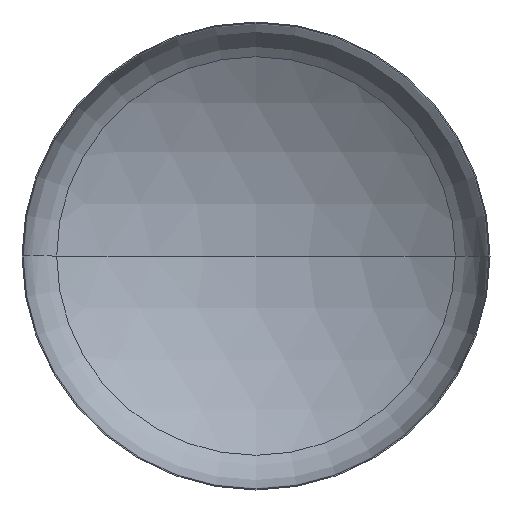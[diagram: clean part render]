
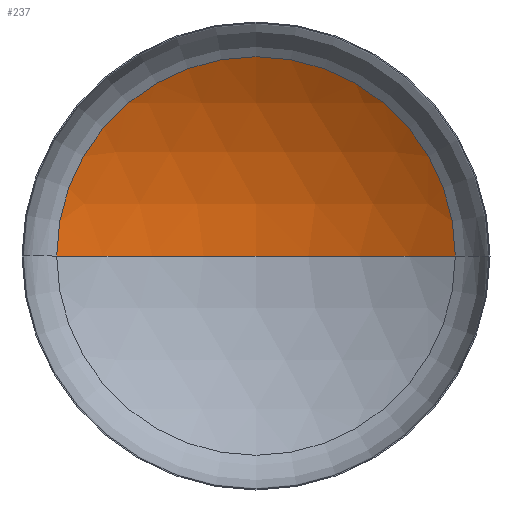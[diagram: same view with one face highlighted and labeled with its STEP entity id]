
A CAD part, front view. The second image highlights one B-rep face of the part: STEP entity #237.
In plain terms, the highlighted spherical face has radius 5200 mm.
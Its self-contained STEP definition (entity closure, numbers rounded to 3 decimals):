
#14 = CIRCLE ( 'NONE', #93, 5200. ) ;
#16 = VERTEX_POINT ( 'NONE', #348 ) ;
#22 = DIRECTION ( 'NONE',  ( 0., 0., -1. ) ) ;
#23 = DIRECTION ( 'NONE',  ( 0., 0., -1. ) ) ;
#32 = VERTEX_POINT ( 'NONE', #45 ) ;
#45 = CARTESIAN_POINT ( 'NONE',  ( -2768.381, 891.505, 0. ) ) ;
#46 = ORIENTED_EDGE ( 'NONE', *, *, #177, .F. ) ;
#50 = VERTEX_POINT ( 'NONE', #242 ) ;
#55 = AXIS2_PLACEMENT_3D ( 'NONE', #183, #22, #380 ) ;
#82 = AXIS2_PLACEMENT_3D ( 'NONE', #259, #311, #264 ) ;
#84 = DIRECTION ( 'NONE',  ( -1., 0., 0. ) ) ;
#93 = AXIS2_PLACEMENT_3D ( 'NONE', #351, #23, #84 ) ;
#94 = AXIS2_PLACEMENT_3D ( 'NONE', #192, #196, #197 ) ;
#132 = EDGE_LOOP ( 'NONE', ( #46, #187, #144 ) ) ;
#144 = ORIENTED_EDGE ( 'NONE', *, *, #170, .T. ) ;
#150 = SPHERICAL_SURFACE ( 'NONE', #55, 5200. ) ;
#170 = EDGE_CURVE ( 'NONE', #16, #32, #249, .T. ) ;
#171 = EDGE_CURVE ( 'NONE', #50, #16, #14, .T. ) ;
#177 = EDGE_CURVE ( 'NONE', #50, #32, #361, .T. ) ;
#183 = CARTESIAN_POINT ( 'NONE',  ( 0., -3510.321, 0. ) ) ;
#187 = ORIENTED_EDGE ( 'NONE', *, *, #171, .T. ) ;
#192 = CARTESIAN_POINT ( 'NONE',  ( 0., 891.505, 0. ) ) ;
#196 = DIRECTION ( 'NONE',  ( 0., -1., 0. ) ) ;
#197 = DIRECTION ( 'NONE',  ( 1., 0., 0. ) ) ;
#237 = ADVANCED_FACE ( 'NONE', ( #349 ), #150, .F. ) ;
#242 = CARTESIAN_POINT ( 'NONE',  ( 0., 1689.679, 0. ) ) ;
#249 = CIRCLE ( 'NONE', #94, 2768.381 ) ;
#259 = CARTESIAN_POINT ( 'NONE',  ( 0., -3510.321, 0. ) ) ;
#264 = DIRECTION ( 'NONE',  ( 1., 0., 0. ) ) ;
#311 = DIRECTION ( 'NONE',  ( 0., 0., 1. ) ) ;
#348 = CARTESIAN_POINT ( 'NONE',  ( 2768.381, 891.505, 0. ) ) ;
#349 = FACE_OUTER_BOUND ( 'NONE', #132, .T. ) ;
#351 = CARTESIAN_POINT ( 'NONE',  ( 0., -3510.321, 0. ) ) ;
#361 = CIRCLE ( 'NONE', #82, 5200. ) ;
#380 = DIRECTION ( 'NONE',  ( -1., 0., 0. ) ) ;
